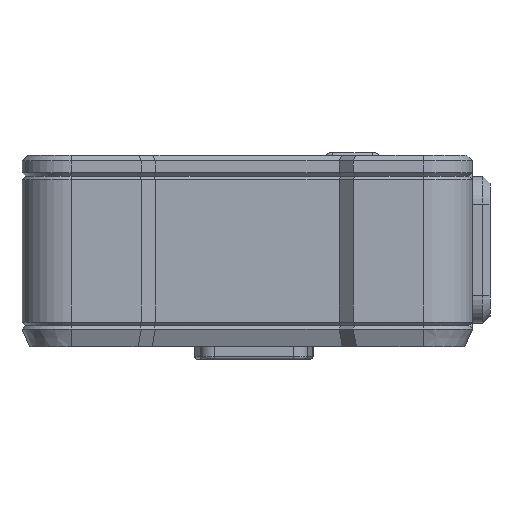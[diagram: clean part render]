
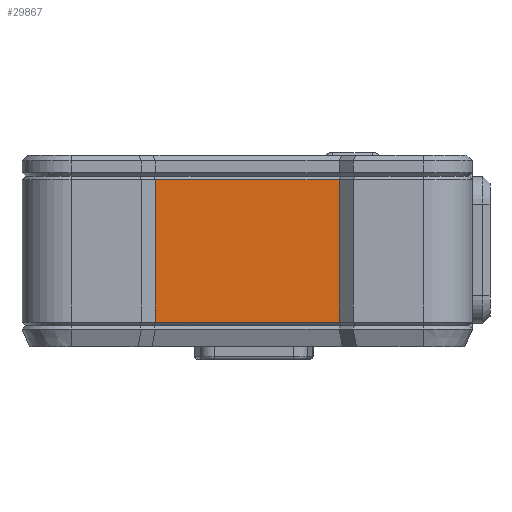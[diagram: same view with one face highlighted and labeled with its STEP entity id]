
A CAD part, left-side view. The second image highlights one B-rep face of the part: STEP entity #29867.
In plain terms, the highlighted planar face has unit normal (-1, 0, 0).
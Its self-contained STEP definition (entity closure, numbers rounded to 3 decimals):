
#3815=FACE_OUTER_BOUND('',#5704,.T.);
#5704=EDGE_LOOP('',(#20906,#20907,#20908,#20909));
#7858=LINE('',#44195,#10163);
#7943=LINE('',#45147,#10248);
#7946=LINE('',#45154,#10251);
#7947=LINE('',#45155,#10252);
#10163=VECTOR('',#35264,10.);
#10248=VECTOR('',#35405,10.);
#10251=VECTOR('',#35412,10.);
#10252=VECTOR('',#35413,10.);
#12479=VERTEX_POINT('',#44184);
#12482=VERTEX_POINT('',#44194);
#12676=VERTEX_POINT('',#45145);
#12678=VERTEX_POINT('',#45153);
#15596=EDGE_CURVE('',#12479,#12482,#7858,.T.);
#15815=EDGE_CURVE('',#12479,#12676,#7943,.T.);
#15818=EDGE_CURVE('',#12678,#12676,#7946,.T.);
#15819=EDGE_CURVE('',#12482,#12678,#7947,.T.);
#20906=ORIENTED_EDGE('',*,*,#15818,.T.);
#20907=ORIENTED_EDGE('',*,*,#15815,.F.);
#20908=ORIENTED_EDGE('',*,*,#15596,.T.);
#20909=ORIENTED_EDGE('',*,*,#15819,.T.);
#28994=PLANE('',#31919);
#29867=ADVANCED_FACE('',(#3815),#28994,.T.);
#31919=AXIS2_PLACEMENT_3D('',#45152,#35410,#35411);
#35264=DIRECTION('',(0.,-1.,0.));
#35405=DIRECTION('',(0.,0.,1.));
#35410=DIRECTION('center_axis',(-1.,0.,0.));
#35411=DIRECTION('ref_axis',(0.,-1.,0.));
#35412=DIRECTION('',(0.,1.,0.));
#35413=DIRECTION('',(0.,0.,1.));
#44184=CARTESIAN_POINT('',(-19.5,41.154,-2.586));
#44194=CARTESIAN_POINT('',(-19.5,14.952,-2.586));
#44195=CARTESIAN_POINT('',(-19.5,41.154,-2.586));
#45145=CARTESIAN_POINT('',(-19.5,41.154,17.714));
#45147=CARTESIAN_POINT('',(-19.5,41.154,19.214));
#45152=CARTESIAN_POINT('Origin',(-19.5,41.154,19.214));
#45153=CARTESIAN_POINT('',(-19.5,14.952,17.714));
#45154=CARTESIAN_POINT('',(-19.5,41.154,17.714));
#45155=CARTESIAN_POINT('',(-19.5,14.952,19.214));
